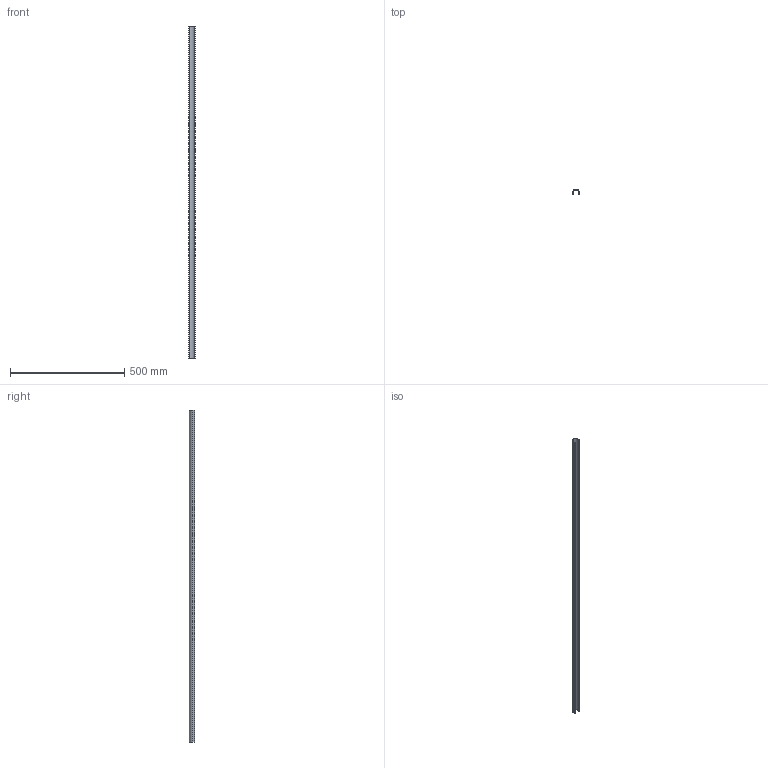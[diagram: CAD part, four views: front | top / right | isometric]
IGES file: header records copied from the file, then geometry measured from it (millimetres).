
Start section: SolidWorks IGES file using analytic representation for surfaces
Global section: file name: C:\Users\Bernhard.Fink\OneDrive - Zumtobel Group\Desktop\16208899_00_1450mm.IGS; native system: SolidWorks 2020; preprocessor: SolidWorks 2020; author: Bernhard.Fink; date: 220831.065806; units: millimetre
Bounding box: 28.5 x 22 x 1450 mm (x, y, z)
Surface area: 181911.9 mm2 (no closed solid volume)
Topology: 0 solids, 0 shells, 23 faces, 288 edges, 288 vertices
Faces by surface type: bspline 12, revolution 11
